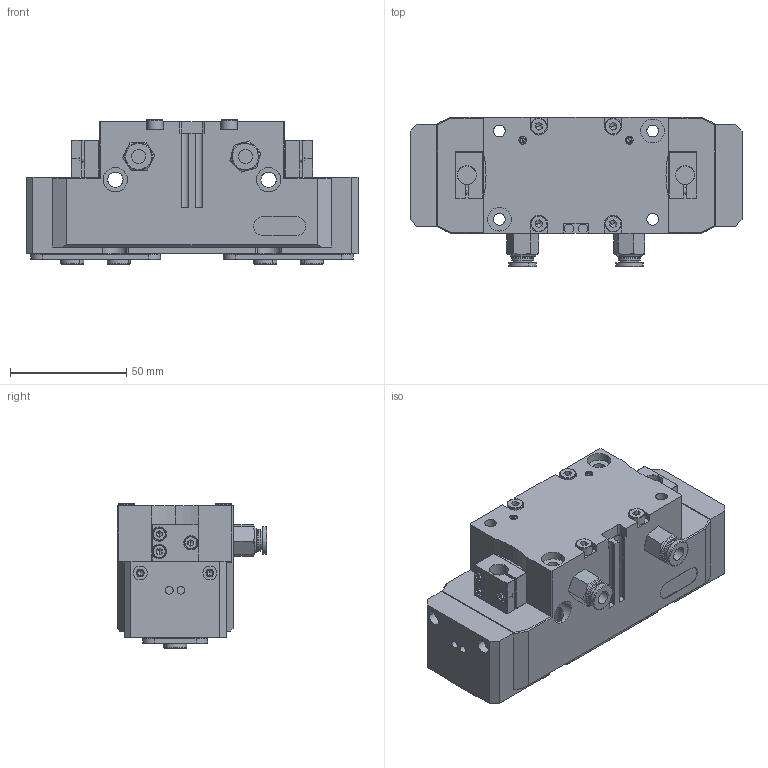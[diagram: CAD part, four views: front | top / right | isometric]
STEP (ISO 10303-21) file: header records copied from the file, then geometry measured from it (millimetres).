
FILE_DESCRIPTION (( 'STEP AP214' ), '1' );
FILE_NAME ('FPT-100B-1-SD×°Åä.STEP', '2024-09-04T02:11:52', ( '' ), ( '' ), 'SwSTEP 2.0', 'SolidWorks 2018', '' );
FILE_SCHEMA (( 'AUTOMOTIVE_DESIGN' ));
Length unit declared in the file: millimetre
Products named in the file (1): FPT-100B-1-SD蚾饜
Bounding box: 143 x 64.55 x 62.2 mm (x, y, z)
Volume: 307423.3 mm3; surface area: 63103.3 mm2
Topology: 1 solids, 40 shells, 1497 faces, 3616 edges, 2213 vertices
Faces by surface type: plane 750, cylinder 406, cone 313, torus 28
Entity records: 49058 total; most frequent: CARTESIAN_POINT 9582, DIRECTION 7731, ORIENTED_EDGE 7120, EDGE_CURVE 3560, AXIS2_PLACEMENT_3D 2802, VERTEX_POINT 2213, LINE 2127, VECTOR 2127
